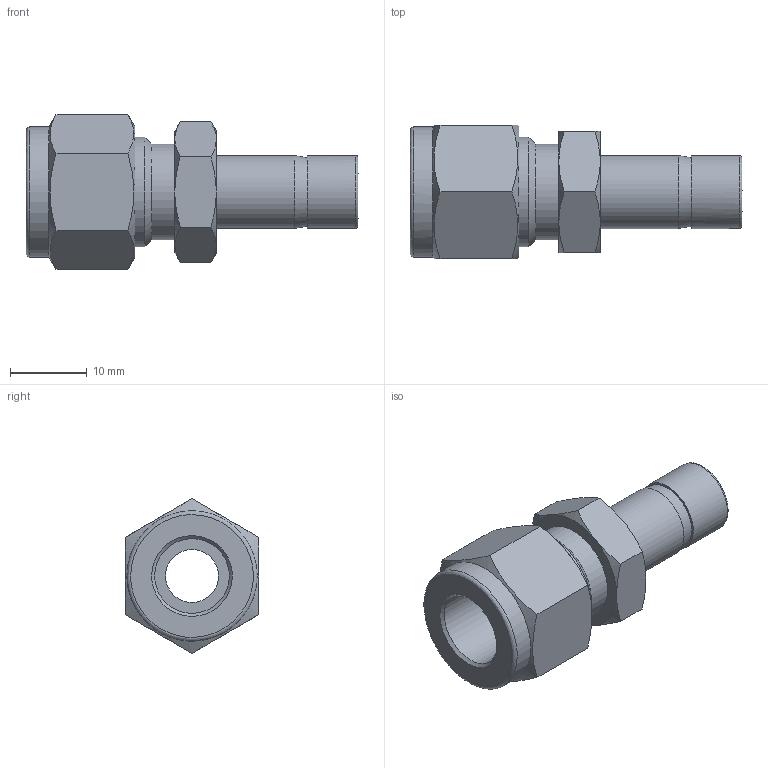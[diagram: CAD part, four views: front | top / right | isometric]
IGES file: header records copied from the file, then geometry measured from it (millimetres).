
Global section: file name: SR-6-6; native system: Autodesk Inventor 2016; preprocessor: unknown; author: DESIGNPC2; date: 20151111.195555; units: millimetre
Bounding box: 43.31 x 17.46 x 20.16 mm (x, y, z)
Volume: 4553.3 mm3; surface area: 3545.4 mm2
Topology: 1 solids, 1 shells, 45 faces, 122 edges, 84 vertices
Faces by surface type: bspline 45
